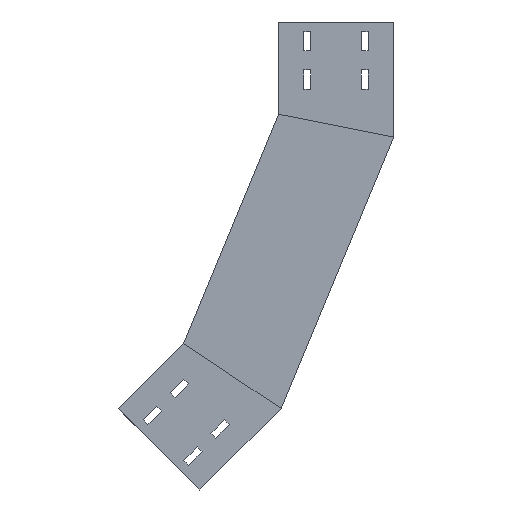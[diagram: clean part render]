
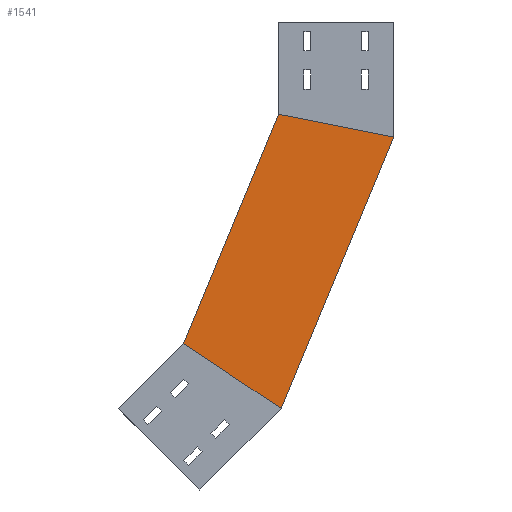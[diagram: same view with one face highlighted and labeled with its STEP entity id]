
A CAD part, left-side view. The second image highlights one B-rep face of the part: STEP entity #1541.
In plain terms, the highlighted planar face has unit normal (-1, 0, 0) as drawn and (1, 0, 0) by its records, which use the part's own axes.
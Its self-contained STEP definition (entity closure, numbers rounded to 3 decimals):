
#18 = VECTOR ( 'NONE', #1535, 1000. ) ;
#73 = CARTESIAN_POINT ( 'NONE',  ( 0., 0., -150. ) ) ;
#94 = VECTOR ( 'NONE', #732, 1000. ) ;
#110 = CARTESIAN_POINT ( 'NONE',  ( 0., 208.695, -462.334 ) ) ;
#162 = CARTESIAN_POINT ( 'NONE',  ( 0., 0., -150. ) ) ;
#167 = ORIENTED_EDGE ( 'NONE', *, *, #578, .F. ) ;
#345 = AXIS2_PLACEMENT_3D ( 'NONE', #73, #1056, #1623 ) ;
#386 = VERTEX_POINT ( 'NONE', #1131 ) ;
#479 = VERTEX_POINT ( 'NONE', #1816 ) ;
#522 = FACE_OUTER_BOUND ( 'NONE', #1528, .T. ) ;
#523 = ORIENTED_EDGE ( 'NONE', *, *, #763, .F. ) ;
#532 = VERTEX_POINT ( 'NONE', #1513 ) ;
#578 = EDGE_CURVE ( 'NONE', #386, #532, #895, .T. ) ;
#674 = ORIENTED_EDGE ( 'NONE', *, *, #1297, .T. ) ;
#732 = DIRECTION ( 'NONE',  ( 0., -0.831, -0.556 ) ) ;
#746 = VECTOR ( 'NONE', #1084, 1000. ) ;
#763 = EDGE_CURVE ( 'NONE', #964, #386, #1538, .T. ) ;
#786 = LINE ( 'NONE', #162, #18 ) ;
#895 = LINE ( 'NONE', #110, #94 ) ;
#964 = VERTEX_POINT ( 'NONE', #987 ) ;
#987 = CARTESIAN_POINT ( 'NONE',  ( 0., 150., -120.163 ) ) ;
#1008 = VECTOR ( 'NONE', #1514, 1000. ) ;
#1056 = DIRECTION ( 'NONE',  ( -1., 0., 0. ) ) ;
#1084 = DIRECTION ( 'NONE',  ( 0., 0.383, -0.924 ) ) ;
#1131 = CARTESIAN_POINT ( 'NONE',  ( 0., 273.732, -418.878 ) ) ;
#1154 = PLANE ( 'NONE',  #345 ) ;
#1197 = LINE ( 'NONE', #1827, #1008 ) ;
#1297 = EDGE_CURVE ( 'NONE', #479, #532, #786, .T. ) ;
#1513 = CARTESIAN_POINT ( 'NONE',  ( 0., 146.568, -503.846 ) ) ;
#1514 = DIRECTION ( 'NONE',  ( 0., -0.981, -0.195 ) ) ;
#1528 = EDGE_LOOP ( 'NONE', ( #523, #1656, #674, #167 ) ) ;
#1535 = DIRECTION ( 'NONE',  ( 0., 0.383, -0.924 ) ) ;
#1538 = LINE ( 'NONE', #1865, #746 ) ;
#1541 = ADVANCED_FACE ( 'NONE', ( #522 ), #1154, .F. ) ;
#1623 = DIRECTION ( 'NONE',  ( 0., 0., 1. ) ) ;
#1656 = ORIENTED_EDGE ( 'NONE', *, *, #1887, .T. ) ;
#1816 = CARTESIAN_POINT ( 'NONE',  ( 0., 0., -150. ) ) ;
#1827 = CARTESIAN_POINT ( 'NONE',  ( 0., 28.701, -144.291 ) ) ;
#1865 = CARTESIAN_POINT ( 'NONE',  ( 0., 138.582, -92.597 ) ) ;
#1887 = EDGE_CURVE ( 'NONE', #964, #479, #1197, .T. ) ;
